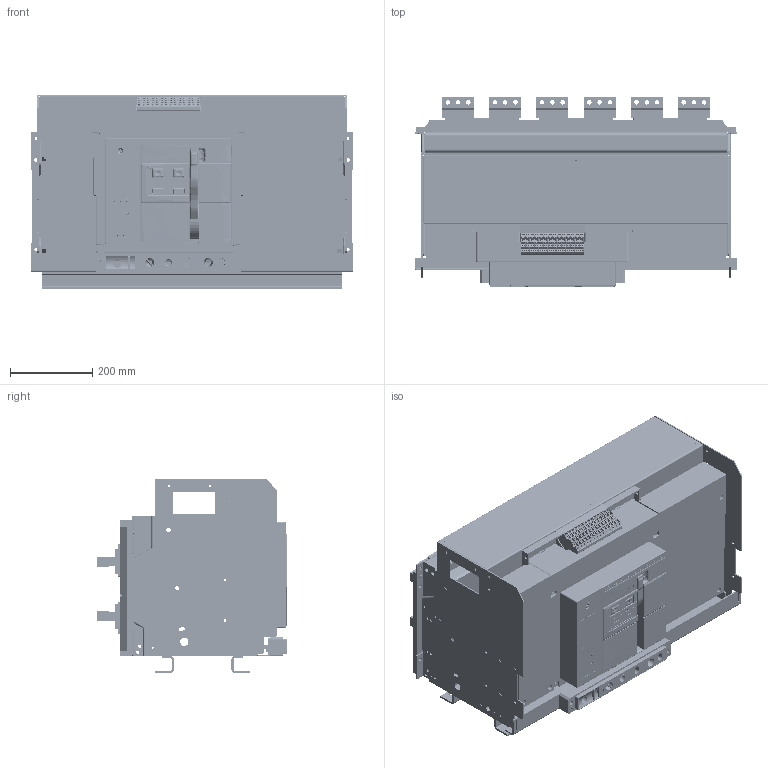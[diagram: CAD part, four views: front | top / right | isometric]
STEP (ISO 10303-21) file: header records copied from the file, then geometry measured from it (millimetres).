
FILE_DESCRIPTION((''),'2;1');
FILE_NAME('NA8-7500-5000-3P_ASM','2020-03-17T16:36:31',('lcc'),(''),'CREO PARAMETRIC BY PTC INC, 2018020','CREO PARAMETRIC BY PTC INC, 2018020','');
FILE_SCHEMA(('CONFIG_CONTROL_DESIGN','SHAPE_APPEARANCE_LAYERS_GROUPS'));
Products named in the file (42): 8050A0101114N; 8050A0306115; 8050A0306116; 8300A0304103; 8ZTD-300-536; 8ZTD-060-207; 8300A0101113; 8300A0101116; 8ZTD-253-779; 8ZTD-253-780; 8ZTD-253-782; 8073A0306101; 8140A0306104; 8150A0306106; 5073A1526101_ASM; 3PJIZUO-01; 3PJIZUO-02; 8580A0412118; 8073A0306104; 8ZTD-227-004; 8ZTD-235-048; 8ZTD-321-090; 8ZTD-253-577; 8-040-432; 8-004-030; 8-320-094; 8-860-KZQ; 8580A0412008; 8ZTD-024-837; 8ZTD-557-514; 8ZTD-557-515; 8ZTD-557-516; 8ZTD-557-517; M3_GB6170; M3X8_GB818; 8ZTD-141-185; 8ZTD-141-184; 5ZTD-558-712_ASM; 8ZTD-860-699; 8ZTD-064-136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
Assembly tree (83 placements, depth 4):
  NA8-7500-5000-3P_ASM
    8050A0101114N
    8050A0306115
    8050A0306116
    8300A0304103
    8ZTD-300-536
    8ZTD-060-207
    8300A0101113
    8300A0101116
    8ZTD-253-779
    8ZTD-253-780
    8ZTD-253-782
    5073A1526101_ASM
      8073A0306101
      8140A0306104  x2
      8150A0306106  x6
    3PJIZUO-01
    3PJIZUO-02
    8580A0412118  x6
    8073A0306104  x2
    8ZTD-227-004
    8ZTD-235-048
    8ZTD-321-090
    8ZTD-253-577
    8-040-432
    8-004-030
    8-320-094
    8-860-KZQ
    8580A0412008  x12
    5ZTD-558-695-4000_ASM
      5ZTD-558-712_ASM  x14
        8ZTD-024-837
        8ZTD-557-514
        8ZTD-557-515
        8ZTD-557-516
        8ZTD-557-517
        M3_GB6170
        M3X8_GB818
        8ZTD-141-185
        8ZTD-141-184
      8ZTD-860-699
      8ZTD-064-136
Bounding box: 786 x 465.48 x 471.5 mm (x, y, z)
Volume: 29281896.9 mm3; surface area: 5744488.1 mm2
Topology: 261 solids, 263 shells, 23397 faces, 63206 edges, 40924 vertices
Faces by surface type: plane 15811, cylinder 4454, cone 1254, bspline 918, torus 471, sphere 264, extrusion 225
Entity records: 399490 total; most frequent: CARTESIAN_POINT 74375, ORIENTED_EDGE 46745, DIRECTION 43486, PRESENTATION_STYLE_ASSIGNMENT 28185, STYLED_ITEM 27892, EDGE_CURVE 23380, CURVE_STYLE 23059, VECTOR 17134
